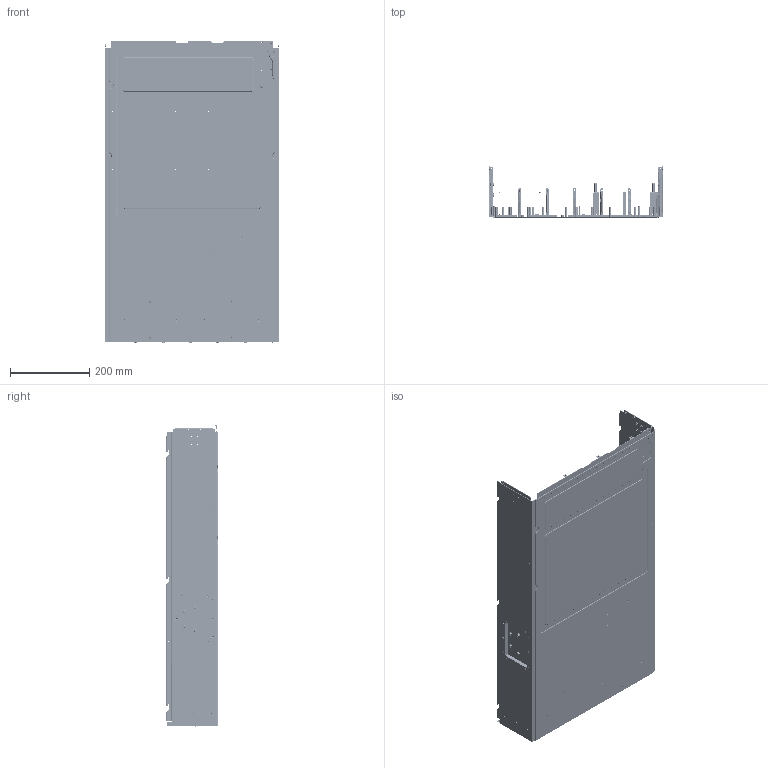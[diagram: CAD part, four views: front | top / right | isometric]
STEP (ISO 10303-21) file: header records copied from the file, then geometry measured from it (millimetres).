
FILE_DESCRIPTION((''),'2;1');
FILE_NAME('123100001276A_CHASSIS-D700_ASM','2019-06-19T',('george_hsu'),(''),'PRO/ENGINEER BY PARAMETRIC TECHNOLOGY CORPORATION, 2012480','PRO/ENGINEER BY PARAMETRIC TECHNOLOGY CORPORATION, 2012480','');
FILE_SCHEMA(('AUTOMOTIVE_DESIGN { 1 0 10303 214 1 1 1 1 }'));
Products named in the file (40): 12340000XXXXA_3U-J2-BASE; PULL-TAB-BRK-NEW; MYLAR_BASE_WEDGE100; PULL-TAB-BRK_ASM; RIVET_DOUBLE_16; RIVET; FAN-BRK_J2-D700; FAN-DIVIDER_J2; RIVET_05-RI-5D; FAN-LP-J2; FAN-DIVIDER_J2_ASM; FAN-BRK-T_J2-D760; FAN-BRK-LOCATION-PIN-D1P8; BSO-M3X21P95; FAN-BRK_J2-D700_ASM; R1018-E1046-01; NUT_PEM-SP-M4-1; R1018-F1046-01_ASM; R1018-E9031-01; R0880-E1006-01; 124100008000E-M4X6-D8; RIVET_05-RI-T2P2; SO-M3X7P94; PIN-2P8X10P3; PSU-SUPPORT-BRK-C02; RIVET_05-RI-T2; PSU-SUPPORT-BRK_ASM; STRUCTURE-BRK; SO-M3X6P5; SO-M3X6P2; STRUCTURE-BRK_ASM; SO-M3X24P5; SO-M3X26P5; SO-M3X29P5-LOCATION; SO-M3X27P5-LOCATION; SO-M3X22P7; CPU-PCB-LOCATION-PIN-D3; R1018-E9015-01; RASM3-7-6ZI-PENNENGINEERING-11-; 123100001276A_CHASSIS-D700_ASM
Assembly tree (204 placements, depth 4):
  123100001276A_CHASSIS-D700_ASM
    12340000XXXXA_3U-J2-BASE
    PULL-TAB-BRK_ASM
      PULL-TAB-BRK-NEW
      MYLAR_BASE_WEDGE100
    RIVET_DOUBLE_16  x2
    RIVET  x2
    FAN-BRK_J2-D700_ASM
      FAN-BRK_J2-D700
      FAN-DIVIDER_J2_ASM  x6
        FAN-DIVIDER_J2
        RIVET_05-RI-5D
        FAN-LP-J2
      FAN-BRK-T_J2-D760
      RIVET  x24
      FAN-BRK-LOCATION-PIN-D1P8  x3
      BSO-M3X21P95  x2
      RIVET_DOUBLE_16  x2
    R1018-F1046-01_ASM  x2
      R1018-E1046-01
      NUT_PEM-SP-M4-1
    R1018-E9031-01  x2
    R0880-E1006-01  x20
    124100008000E-M4X6-D8  x8
    RIVET_05-RI-T2P2  x16
    SO-M3X7P94  x8
    PIN-2P8X10P3  x2
    PSU-SUPPORT-BRK_ASM
      PSU-SUPPORT-BRK-C02
      RIVET_05-RI-T2  x8
      BSO-M3X21P95  x2
    RIVET_05-RI-T2  x22
    STRUCTURE-BRK_ASM
      STRUCTURE-BRK
      SO-M3X6P5  x4
      SO-M3X6P2  x4
    SO-M3X24P5  x4
    SO-M3X26P5  x24
    SO-M3X29P5-LOCATION
    SO-M3X27P5-LOCATION
    SO-M3X22P7
    CPU-PCB-LOCATION-PIN-D3  x2
    NUT_PEM-SP-M4-1  x8
    R1018-E9015-01  x2
    RASM3-7-6ZI-PENNENGINEERING-11-  x2
Bounding box: 440 x 129.92 x 760.1 mm (x, y, z)
Volume: 849903.8 mm3; surface area: 1769013.7 mm2
Topology: 215 solids, 215 shells, 10811 faces, 26623 edges, 16479 vertices
Faces by surface type: cylinder 4522, plane 3982, cone 1042, bspline 651, torus 426, sphere 188
Entity records: 170161 total; most frequent: CARTESIAN_POINT 53781, DIRECTION 19792, ORIENTED_EDGE 18498, EDGE_CURVE 9249, AXIS2_PLACEMENT_3D 7450, PRESENTATION_STYLE_ASSIGNMENT 6181, STYLED_ITEM 6156, CURVE_STYLE 5841
